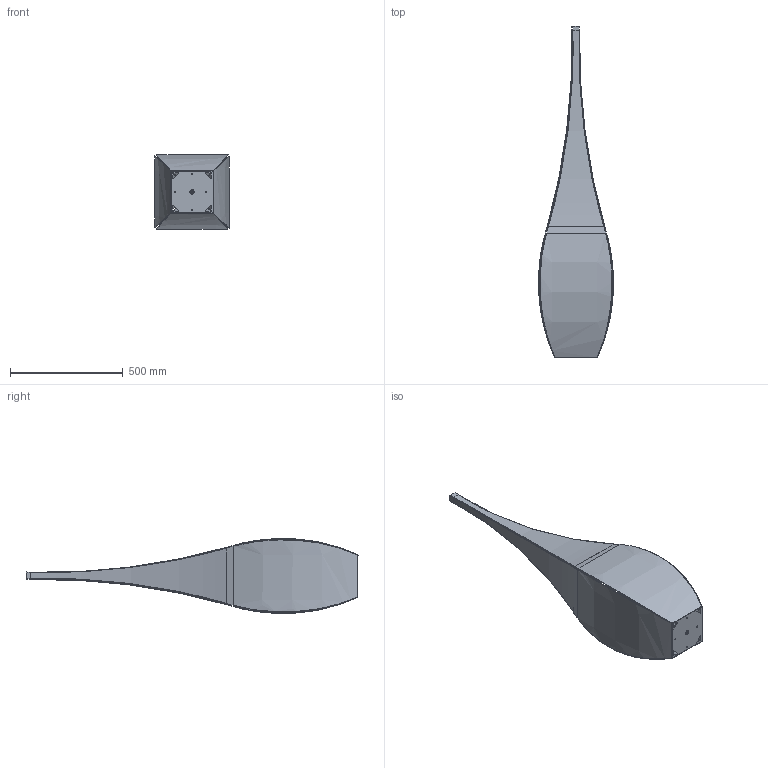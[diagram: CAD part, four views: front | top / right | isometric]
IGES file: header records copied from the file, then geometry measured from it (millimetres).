
Start section: SolidWorks IGES file using analytic representation for surfaces
Global section: file name: \\UTENTI\Dati Utenti\Tecnico\DC\2D - 3D per sito\3D\DeCastelli-3D-Jaipur 150.igs; native system: SolidWorks 2022; preprocessor: SolidWorks 2022; author: maria; date: 240725.084313; units: millimetre
Bounding box: 333.03 x 1474.53 x 332.63 mm (x, y, z)
Surface area: 2112337.4 mm2 (no closed solid volume)
Topology: 0 solids, 0 shells, 106 faces, 1292 edges, 1292 vertices
Faces by surface type: bspline 61, revolution 45
